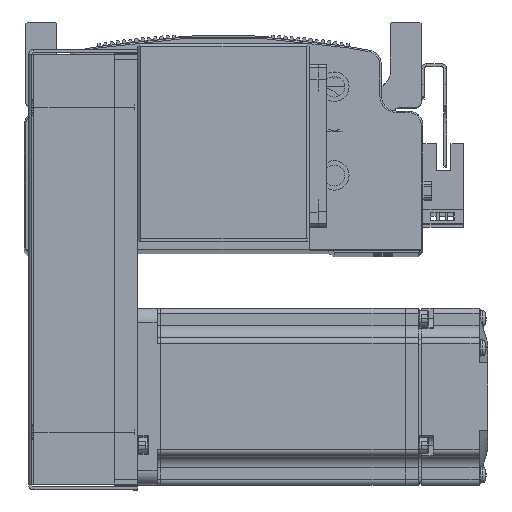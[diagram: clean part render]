
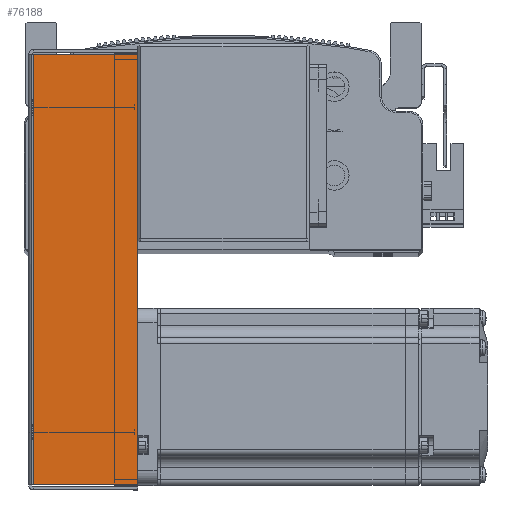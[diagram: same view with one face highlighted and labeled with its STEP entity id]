
A CAD part, top view. The second image highlights one B-rep face of the part: STEP entity #76188.
In plain terms, the highlighted planar face has unit normal (0, 0, 1) as drawn and (0, 0, -1) by its records, which use the part's own axes.
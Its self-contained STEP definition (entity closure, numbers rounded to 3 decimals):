
#13006 = EDGE_CURVE ( 'NONE', #35338, #35300, #47023, .T. ) ;
#13034 = EDGE_CURVE ( 'NONE', #35363, #35300, #47191, .T. ) ;
#13086 = EDGE_CURVE ( 'NONE', #35262, #35363, #47335, .T. ) ;
#13095 = EDGE_CURVE ( 'NONE', #35262, #35338, #47277, .T. ) ;
#13810 = CARTESIAN_POINT ( 'NONE',  ( 0., 36., -34.5 ) ) ;
#13811 = DIRECTION ( 'NONE',  ( 1., 0., 0. ) ) ;
#13900 = CARTESIAN_POINT ( 'NONE',  ( 72.793, 0., -34.5 ) ) ;
#13916 = DIRECTION ( 'NONE',  ( 0., 1., 0. ) ) ;
#14109 = CARTESIAN_POINT ( 'NONE',  ( 74.5, 0.737, -34.5 ) ) ;
#14127 = DIRECTION ( 'NONE',  ( 1., 0., 0. ) ) ;
#14143 = DIRECTION ( 'NONE',  ( 0., 1., 0. ) ) ;
#14151 = CARTESIAN_POINT ( 'NONE',  ( -72.793, 0., -34.5 ) ) ;
#33245 = EDGE_LOOP ( 'NONE', ( #60448, #60322, #60452, #60482 ) ) ;
#35262 = VERTEX_POINT ( 'NONE', #57828 ) ;
#35300 = VERTEX_POINT ( 'NONE', #57904 ) ;
#35338 = VERTEX_POINT ( 'NONE', #57903 ) ;
#35363 = VERTEX_POINT ( 'NONE', #57890 ) ;
#47023 = LINE ( 'NONE', #13810, #47101 ) ;
#47101 = VECTOR ( 'NONE', #13811, 1000. ) ;
#47191 = LINE ( 'NONE', #13900, #47235 ) ;
#47235 = VECTOR ( 'NONE', #13916, 1000. ) ;
#47273 = VECTOR ( 'NONE', #14127, 1000. ) ;
#47277 = LINE ( 'NONE', #14151, #47373 ) ;
#47335 = LINE ( 'NONE', #14109, #47273 ) ;
#47373 = VECTOR ( 'NONE', #14143, 1000. ) ;
#57828 = CARTESIAN_POINT ( 'NONE',  ( -72.793, 0.737, -34.5 ) ) ;
#57890 = CARTESIAN_POINT ( 'NONE',  ( 72.793, 0.737, -34.5 ) ) ;
#57903 = CARTESIAN_POINT ( 'NONE',  ( -72.793, 36., -34.5 ) ) ;
#57904 = CARTESIAN_POINT ( 'NONE',  ( 72.793, 36., -34.5 ) ) ;
#58941 = PLANE ( 'NONE',  #67257 ) ;
#58944 = CARTESIAN_POINT ( 'NONE',  ( 0., 0., -34.5 ) ) ;
#58945 = DIRECTION ( 'NONE',  ( 0., 0., 1. ) ) ;
#58948 = DIRECTION ( 'NONE',  ( 0., -1., 0. ) ) ;
#60322 = ORIENTED_EDGE ( 'NONE', *, *, #13095, .T. ) ;
#60448 = ORIENTED_EDGE ( 'NONE', *, *, #13086, .F. ) ;
#60452 = ORIENTED_EDGE ( 'NONE', *, *, #13006, .T. ) ;
#60482 = ORIENTED_EDGE ( 'NONE', *, *, #13034, .F. ) ;
#63686 = FACE_OUTER_BOUND ( 'NONE', #33245, .T. ) ;
#67257 = AXIS2_PLACEMENT_3D ( 'NONE', #58944, #58945, #58948 ) ;
#76188 = ADVANCED_FACE ( 'NONE', ( #63686 ), #58941, .F. ) ;
